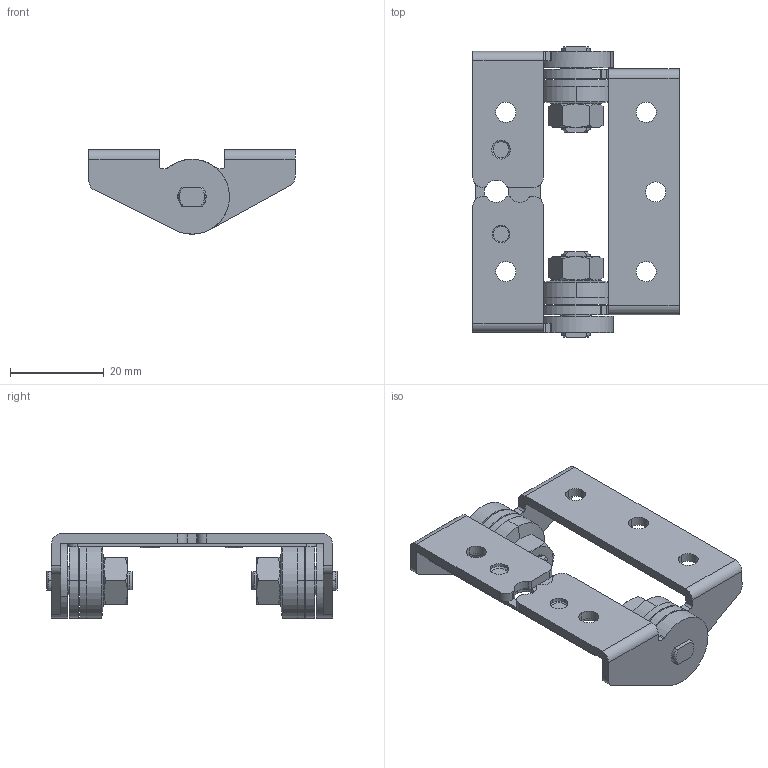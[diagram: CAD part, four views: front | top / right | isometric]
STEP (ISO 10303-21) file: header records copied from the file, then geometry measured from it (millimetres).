
FILE_DESCRIPTION (( 'STEP AP203' ), '1' );
FILE_NAME ('SC170-19042_HG-ITHP型_トルクヒンジ高温仕様_0.step', '2018-12-04T08:10:07', ( '' ), ( '' ), 'SwSTEP 2.0', 'SolidWorks 2015', '' );
FILE_SCHEMA (( 'CONFIG_CONTROL_DESIGN' ));
Length unit declared in the file: millimetre
Products named in the file (3): SC170-19042_HG-ITHP型_トルクヒンジ高温仕様_0; SC170-19045_ブラケット; Part8^SC170-19042_HG-ITHP型_トルクヒンジ高温仕様
Assembly tree (2 placements, depth 2):
  SC170-19042_HG-ITHP型_トルクヒンジ高温仕様_0
    SC170-19045_ブラケット
    Part8^SC170-19042_HG-ITHP型_トルクヒンジ高温仕様
Bounding box: 44 x 62 x 18 mm (x, y, z)
Volume: 9678.1 mm3; surface area: 10830.2 mm2
Topology: 4 solids, 4 shells, 472 faces, 1280 edges, 826 vertices
Faces by surface type: plane 200, cylinder 156, cone 72, bspline 44
Entity records: 16891 total; most frequent: CARTESIAN_POINT 4679, ORIENTED_EDGE 2560, DIRECTION 2412, EDGE_CURVE 1280, AXIS2_PLACEMENT_3D 879, VERTEX_POINT 826, VECTOR 654, LINE 654
